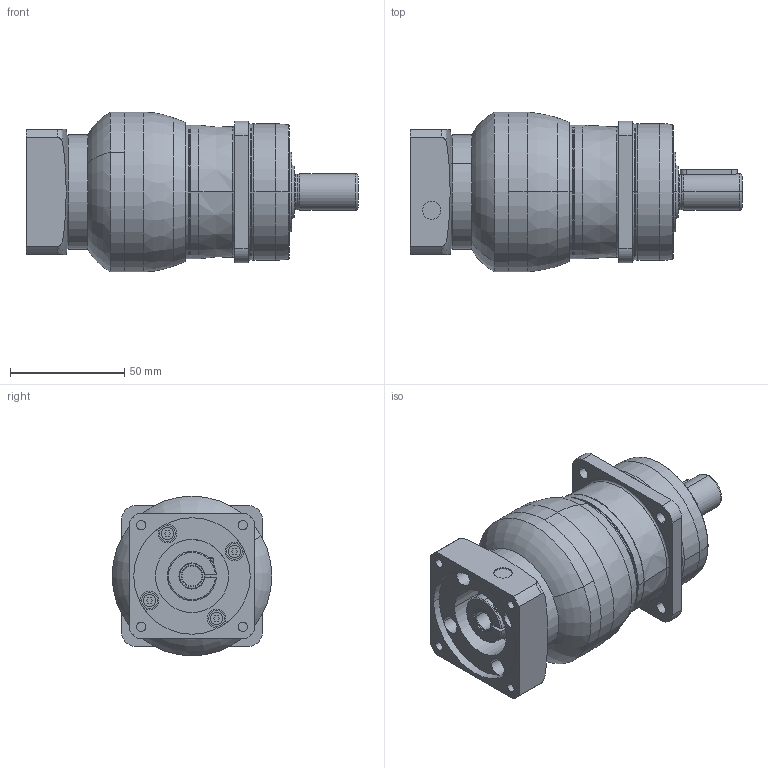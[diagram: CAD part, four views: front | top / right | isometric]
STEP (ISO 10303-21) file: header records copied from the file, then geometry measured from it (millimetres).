
FILE_DESCRIPTION(('STEP AP214'),'1');
FILE_NAME('20180723_135808906.stp','2018-07-23T11:58:09',(''),(''),'XStep 1.0','it-motive AG (itm_Acis_A0018_00R.dll)',' ');
FILE_SCHEMA(('AUTOMOTIVE_DESIGN { 1 0 10303 214 1 1 1 1 }'));
Length unit declared in the file: millimetre
Products named in the file (1): Abtrieb_NPS_m045
Bounding box: 145.5 x 70 x 70 mm (x, y, z)
Volume: 338237.9 mm3; surface area: 56688.4 mm2
Topology: 7 solids, 7 shells, 329 faces, 779 edges, 487 vertices
Faces by surface type: cylinder 126, plane 103, torus 51, cone 47, sphere 2
Entity records: 12948 total; most frequent: CARTESIAN_POINT 2345, DIRECTION 1808, ORIENTED_EDGE 1534, EDGE_CURVE 767, AXIS2_PLACEMENT_3D 752, VERTEX_POINT 487, CIRCLE 416, EDGE_LOOP 382
